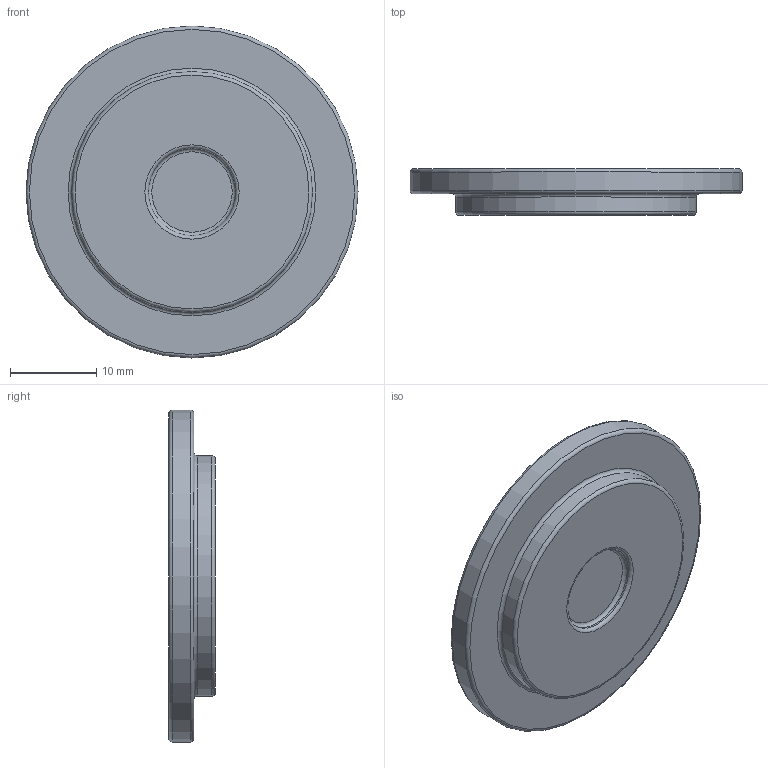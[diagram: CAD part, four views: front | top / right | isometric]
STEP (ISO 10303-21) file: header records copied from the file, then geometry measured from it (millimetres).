
FILE_DESCRIPTION(('Open CASCADE Model'),'2;1');
FILE_NAME('Open CASCADE Shape Model','2026-11-19T06:40:11',('Author'),( 'Open CASCADE'),'Open CASCADE STEP processor 8.0','Open CASCADE 8.0' ,'Unknown');
FILE_SCHEMA(('AUTOMOTIVE_DESIGN { 1 0 10303 214 1 1 1 1 }'));
Length unit declared in the file: millimetre
Products named in the file (1): Open CASCADE STEP translator 8.0 22
Bounding box: 38.6 x 5.4 x 38.6 mm (x, y, z)
Volume: 4843.8 mm3; surface area: 2861 mm2
Topology: 1 solids, 1 shells, 13 faces, 21 edges, 12 vertices
Faces by surface type: torus 6, plane 4, cylinder 3
Full cylindrical faces by diameter (mm): 10.15 x1, 28 x1, 38.6 x1
Entity records: 576 total; most frequent: CARTESIAN_POINT 101, DIRECTION 97, ORIENTED_EDGE 42, PCURVE 42, DEFINITIONAL_REPRESENTATION 42, AXIS2_PLACEMENT_3D 32, LINE 27, VECTOR 27
